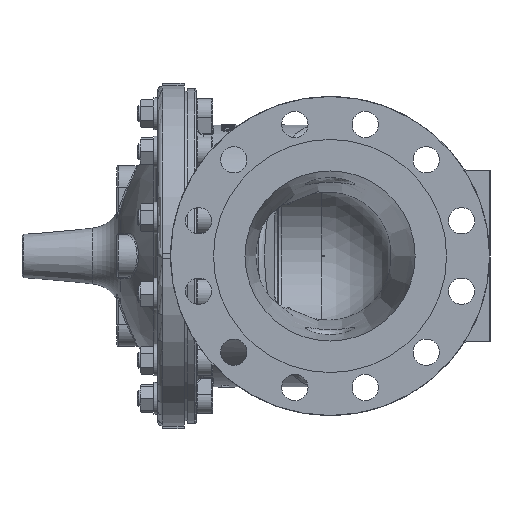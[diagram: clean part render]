
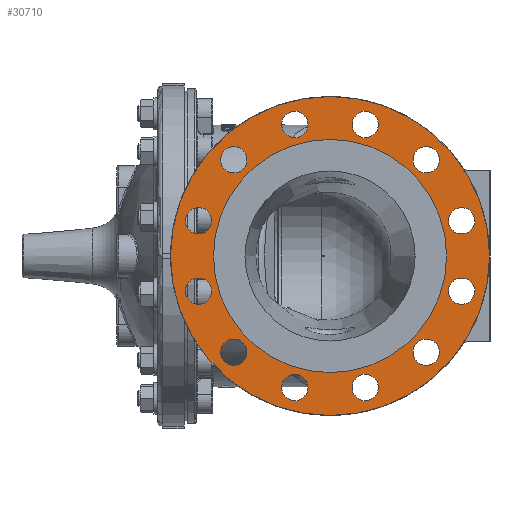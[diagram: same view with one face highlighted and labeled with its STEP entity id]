
A CAD part, left-side view. The second image highlights one B-rep face of the part: STEP entity #30710.
In plain terms, the highlighted planar face has unit normal (-1, 0, 0).
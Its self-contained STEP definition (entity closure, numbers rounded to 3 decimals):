
#5961=FACE_BOUND('',#8410,.T.);
#5962=FACE_BOUND('',#8411,.T.);
#5963=FACE_BOUND('',#8412,.T.);
#5964=FACE_BOUND('',#8413,.T.);
#5965=FACE_BOUND('',#8414,.T.);
#5966=FACE_BOUND('',#8415,.T.);
#5967=FACE_BOUND('',#8416,.T.);
#5968=FACE_BOUND('',#8417,.T.);
#5969=FACE_BOUND('',#8418,.T.);
#5970=FACE_BOUND('',#8419,.T.);
#5971=FACE_BOUND('',#8420,.T.);
#5972=FACE_BOUND('',#8421,.T.);
#5973=FACE_BOUND('',#8422,.T.);
#6419=FACE_OUTER_BOUND('',#8409,.T.);
#8409=EDGE_LOOP('',(#21709));
#8410=EDGE_LOOP('',(#21710));
#8411=EDGE_LOOP('',(#21711));
#8412=EDGE_LOOP('',(#21712));
#8413=EDGE_LOOP('',(#21713));
#8414=EDGE_LOOP('',(#21714));
#8415=EDGE_LOOP('',(#21715));
#8416=EDGE_LOOP('',(#21716));
#8417=EDGE_LOOP('',(#21717));
#8418=EDGE_LOOP('',(#21718));
#8419=EDGE_LOOP('',(#21719));
#8420=EDGE_LOOP('',(#21720));
#8421=EDGE_LOOP('',(#21721));
#8422=EDGE_LOOP('',(#21722));
#10175=CIRCLE('',#32433,15.5);
#10177=CIRCLE('',#32436,15.5);
#10179=CIRCLE('',#32439,15.5);
#10181=CIRCLE('',#32442,15.5);
#10183=CIRCLE('',#32445,15.5);
#10185=CIRCLE('',#32448,15.5);
#10187=CIRCLE('',#32451,15.5);
#10189=CIRCLE('',#32454,15.5);
#10191=CIRCLE('',#32457,15.5);
#10193=CIRCLE('',#32460,15.5);
#10195=CIRCLE('',#32463,15.5);
#10197=CIRCLE('',#32466,15.5);
#10413=CIRCLE('',#32938,137.);
#10415=CIRCLE('',#32941,187.5);
#11978=VERTEX_POINT('',#45350);
#11980=VERTEX_POINT('',#45356);
#11982=VERTEX_POINT('',#45362);
#11984=VERTEX_POINT('',#45368);
#11986=VERTEX_POINT('',#45374);
#11988=VERTEX_POINT('',#45380);
#11990=VERTEX_POINT('',#45386);
#11992=VERTEX_POINT('',#45392);
#11994=VERTEX_POINT('',#45398);
#11996=VERTEX_POINT('',#45404);
#11998=VERTEX_POINT('',#45410);
#12000=VERTEX_POINT('',#45416);
#12620=VERTEX_POINT('',#51446);
#12622=VERTEX_POINT('',#51452);
#15104=EDGE_CURVE('',#11978,#11978,#10175,.T.);
#15107=EDGE_CURVE('',#11980,#11980,#10177,.T.);
#15110=EDGE_CURVE('',#11982,#11982,#10179,.T.);
#15113=EDGE_CURVE('',#11984,#11984,#10181,.T.);
#15116=EDGE_CURVE('',#11986,#11986,#10183,.T.);
#15119=EDGE_CURVE('',#11988,#11988,#10185,.T.);
#15122=EDGE_CURVE('',#11990,#11990,#10187,.T.);
#15125=EDGE_CURVE('',#11992,#11992,#10189,.T.);
#15128=EDGE_CURVE('',#11994,#11994,#10191,.T.);
#15131=EDGE_CURVE('',#11996,#11996,#10193,.T.);
#15134=EDGE_CURVE('',#11998,#11998,#10195,.T.);
#15137=EDGE_CURVE('',#12000,#12000,#10197,.T.);
#16012=EDGE_CURVE('',#12620,#12620,#10413,.T.);
#16015=EDGE_CURVE('',#12622,#12622,#10415,.T.);
#21709=ORIENTED_EDGE('',*,*,#16015,.F.);
#21710=ORIENTED_EDGE('',*,*,#15104,.T.);
#21711=ORIENTED_EDGE('',*,*,#15107,.T.);
#21712=ORIENTED_EDGE('',*,*,#15110,.T.);
#21713=ORIENTED_EDGE('',*,*,#15113,.T.);
#21714=ORIENTED_EDGE('',*,*,#15116,.T.);
#21715=ORIENTED_EDGE('',*,*,#15119,.T.);
#21716=ORIENTED_EDGE('',*,*,#15122,.T.);
#21717=ORIENTED_EDGE('',*,*,#15125,.T.);
#21718=ORIENTED_EDGE('',*,*,#15128,.T.);
#21719=ORIENTED_EDGE('',*,*,#15131,.T.);
#21720=ORIENTED_EDGE('',*,*,#15134,.T.);
#21721=ORIENTED_EDGE('',*,*,#15137,.T.);
#21722=ORIENTED_EDGE('',*,*,#16012,.F.);
#29777=PLANE('',#32940);
#30710=ADVANCED_FACE('',(#6419,#5961,#5962,#5963,#5964,#5965,#5966,#5967,
#5968,#5969,#5970,#5971,#5972,#5973),#29777,.F.);
#32433=AXIS2_PLACEMENT_3D('',#45351,#35958,#35959);
#32436=AXIS2_PLACEMENT_3D('',#45357,#35965,#35966);
#32439=AXIS2_PLACEMENT_3D('',#45363,#35972,#35973);
#32442=AXIS2_PLACEMENT_3D('',#45369,#35979,#35980);
#32445=AXIS2_PLACEMENT_3D('',#45375,#35986,#35987);
#32448=AXIS2_PLACEMENT_3D('',#45381,#35993,#35994);
#32451=AXIS2_PLACEMENT_3D('',#45387,#36000,#36001);
#32454=AXIS2_PLACEMENT_3D('',#45393,#36007,#36008);
#32457=AXIS2_PLACEMENT_3D('',#45399,#36014,#36015);
#32460=AXIS2_PLACEMENT_3D('',#45405,#36021,#36022);
#32463=AXIS2_PLACEMENT_3D('',#45411,#36028,#36029);
#32466=AXIS2_PLACEMENT_3D('',#45417,#36035,#36036);
#32938=AXIS2_PLACEMENT_3D('',#51447,#37327,#37328);
#32940=AXIS2_PLACEMENT_3D('',#51451,#37332,#37333);
#32941=AXIS2_PLACEMENT_3D('',#51453,#37334,#37335);
#35958=DIRECTION('center_axis',(1.,0.,0.));
#35959=DIRECTION('ref_axis',(0.,0.5,0.866));
#35965=DIRECTION('center_axis',(1.,0.,0.));
#35966=DIRECTION('ref_axis',(0.,0.866,0.5));
#35972=DIRECTION('center_axis',(1.,0.,0.));
#35973=DIRECTION('ref_axis',(0.,1.,0.));
#35979=DIRECTION('center_axis',(1.,0.,0.));
#35980=DIRECTION('ref_axis',(0.,0.866,-0.5));
#35986=DIRECTION('center_axis',(1.,0.,0.));
#35987=DIRECTION('ref_axis',(0.,0.5,-0.866));
#35993=DIRECTION('center_axis',(1.,0.,0.));
#35994=DIRECTION('ref_axis',(0.,0.,
-1.));
#36000=DIRECTION('center_axis',(1.,0.,0.));
#36001=DIRECTION('ref_axis',(0.,-0.5,-0.866));
#36007=DIRECTION('center_axis',(1.,0.,0.));
#36008=DIRECTION('ref_axis',(0.,-0.866,-0.5));
#36014=DIRECTION('center_axis',(1.,0.,0.));
#36015=DIRECTION('ref_axis',(0.,-1.,0.));
#36021=DIRECTION('center_axis',(1.,0.,0.));
#36022=DIRECTION('ref_axis',(0.,-0.866,0.5));
#36028=DIRECTION('center_axis',(1.,0.,0.));
#36029=DIRECTION('ref_axis',(0.,-0.5,0.866));
#36035=DIRECTION('center_axis',(1.,0.,0.));
#36036=DIRECTION('ref_axis',(0.,0.,
1.));
#37327=DIRECTION('center_axis',(-1.,0.,0.));
#37328=DIRECTION('ref_axis',(0.,0.,-1.));
#37332=DIRECTION('center_axis',(1.,0.,0.));
#37333=DIRECTION('ref_axis',(0.,0.,-1.));
#37334=DIRECTION('center_axis',(1.,0.,0.));
#37335=DIRECTION('ref_axis',(0.,0.,-1.));
#45350=CARTESIAN_POINT('',(-297.,-75.713,-126.56));
#45351=CARTESIAN_POINT('Origin',(-297.,-67.963,-113.137));
#45356=CARTESIAN_POINT('',(-297.,-153.112,-162.298));
#45357=CARTESIAN_POINT('Origin',(-297.,-139.689,-154.548));
#45362=CARTESIAN_POINT('',(-297.,-238.011,-154.548));
#45363=CARTESIAN_POINT('Origin',(-297.,-222.511,-154.548));
#45368=CARTESIAN_POINT('',(-297.,-307.66,-105.387));
#45369=CARTESIAN_POINT('Origin',(-297.,-294.237,-113.137));
#45374=CARTESIAN_POINT('',(-297.,-343.398,-27.988));
#45375=CARTESIAN_POINT('Origin',(-297.,-335.648,-41.411));
#45380=CARTESIAN_POINT('',(-297.,-335.648,56.911));
#45381=CARTESIAN_POINT('Origin',(-297.,-335.648,41.411));
#45386=CARTESIAN_POINT('',(-297.,-286.487,126.56));
#45387=CARTESIAN_POINT('Origin',(-297.,-294.237,113.137));
#45392=CARTESIAN_POINT('',(-297.,-209.088,162.298));
#45393=CARTESIAN_POINT('Origin',(-297.,-222.511,154.548));
#45398=CARTESIAN_POINT('',(-297.,-124.189,154.548));
#45399=CARTESIAN_POINT('Origin',(-297.,-139.689,154.548));
#45404=CARTESIAN_POINT('',(-297.,-54.54,105.387));
#45405=CARTESIAN_POINT('Origin',(-297.,-67.963,113.137));
#45410=CARTESIAN_POINT('',(-297.,-18.802,27.988));
#45411=CARTESIAN_POINT('Origin',(-297.,-26.552,41.411));
#45416=CARTESIAN_POINT('',(-297.,-26.552,-56.911));
#45417=CARTESIAN_POINT('Origin',(-297.,-26.552,-41.411));
#51446=CARTESIAN_POINT('',(-297.,-181.1,137.));
#51447=CARTESIAN_POINT('Origin',(-297.,-181.1,0.));
#51451=CARTESIAN_POINT('Origin',(-297.,-181.1,0.));
#51452=CARTESIAN_POINT('',(-297.,-181.1,187.5));
#51453=CARTESIAN_POINT('Origin',(-297.,-181.1,0.));
